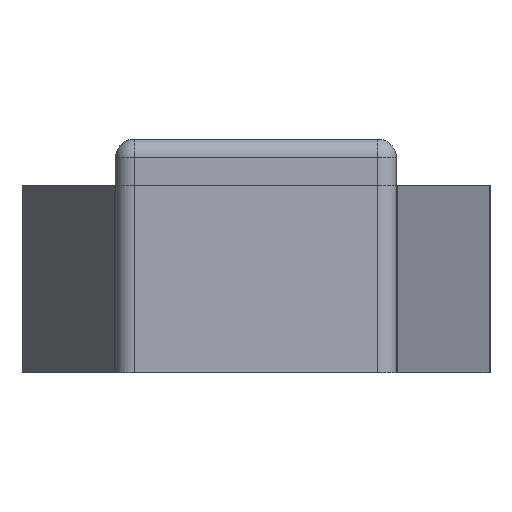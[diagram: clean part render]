
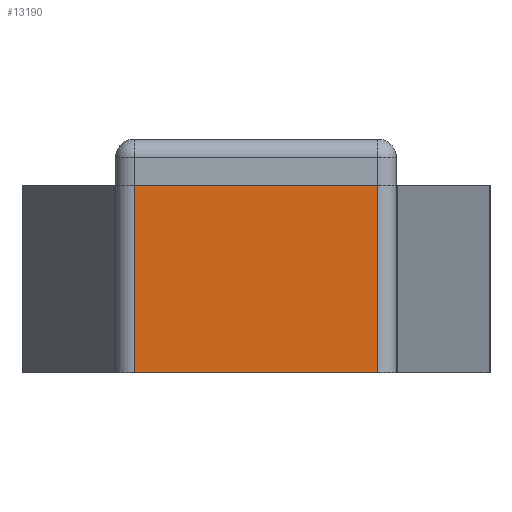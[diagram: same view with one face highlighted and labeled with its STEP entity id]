
A CAD part, front view. The second image highlights one B-rep face of the part: STEP entity #13190.
In plain terms, the highlighted planar face has unit normal (0, -1, 0).
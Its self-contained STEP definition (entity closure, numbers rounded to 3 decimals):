
#56 = VERTEX_POINT ( 'NONE', #16508 ) ;
#711 = EDGE_LOOP ( 'NONE', ( #17848, #2793, #9431, #16267 ) ) ;
#884 = LINE ( 'NONE', #3567, #17084 ) ;
#1156 = DIRECTION ( 'NONE',  ( 1., 0., 0. ) ) ;
#1453 = VECTOR ( 'NONE', #11267, 1000. ) ;
#2793 = ORIENTED_EDGE ( 'NONE', *, *, #7106, .T. ) ;
#3567 = CARTESIAN_POINT ( 'NONE',  ( -7.5, -39., -5. ) ) ;
#3571 = DIRECTION ( 'NONE',  ( 0., 0., 1. ) ) ;
#4832 = AXIS2_PLACEMENT_3D ( 'NONE', #6440, #12228, #5005 ) ;
#4845 = EDGE_CURVE ( 'NONE', #56, #12835, #884, .T. ) ;
#5005 = DIRECTION ( 'NONE',  ( 0., 0., 1. ) ) ;
#5537 = LINE ( 'NONE', #8693, #6942 ) ;
#6440 = CARTESIAN_POINT ( 'NONE',  ( -7.5, -39., 5. ) ) ;
#6826 = FACE_OUTER_BOUND ( 'NONE', #711, .T. ) ;
#6942 = VECTOR ( 'NONE', #3571, 1000. ) ;
#7106 = EDGE_CURVE ( 'NONE', #12835, #13480, #5537, .T. ) ;
#7986 = EDGE_CURVE ( 'NONE', #10306, #56, #13937, .T. ) ;
#8693 = CARTESIAN_POINT ( 'NONE',  ( 6.5, -39., 5. ) ) ;
#9431 = ORIENTED_EDGE ( 'NONE', *, *, #14203, .F. ) ;
#9542 = LINE ( 'NONE', #9922, #9821 ) ;
#9821 = VECTOR ( 'NONE', #1156, 1000. ) ;
#9922 = CARTESIAN_POINT ( 'NONE',  ( -7.5, -39., 5. ) ) ;
#10306 = VERTEX_POINT ( 'NONE', #10976 ) ;
#10688 = CARTESIAN_POINT ( 'NONE',  ( 6.5, -39., 5. ) ) ;
#10976 = CARTESIAN_POINT ( 'NONE',  ( -6.5, -39., 5. ) ) ;
#11185 = PLANE ( 'NONE',  #4832 ) ;
#11267 = DIRECTION ( 'NONE',  ( 0., 0., -1. ) ) ;
#12228 = DIRECTION ( 'NONE',  ( 0., 1., 0. ) ) ;
#12835 = VERTEX_POINT ( 'NONE', #15815 ) ;
#13190 = ADVANCED_FACE ( 'NONE', ( #6826 ), #11185, .F. ) ;
#13480 = VERTEX_POINT ( 'NONE', #10688 ) ;
#13937 = LINE ( 'NONE', #15570, #1453 ) ;
#14022 = DIRECTION ( 'NONE',  ( 1., 0., 0. ) ) ;
#14203 = EDGE_CURVE ( 'NONE', #10306, #13480, #9542, .T. ) ;
#15570 = CARTESIAN_POINT ( 'NONE',  ( -6.5, -39., 5. ) ) ;
#15815 = CARTESIAN_POINT ( 'NONE',  ( 6.5, -39., -5. ) ) ;
#16267 = ORIENTED_EDGE ( 'NONE', *, *, #7986, .T. ) ;
#16508 = CARTESIAN_POINT ( 'NONE',  ( -6.5, -39., -5. ) ) ;
#17084 = VECTOR ( 'NONE', #14022, 1000. ) ;
#17848 = ORIENTED_EDGE ( 'NONE', *, *, #4845, .T. ) ;
